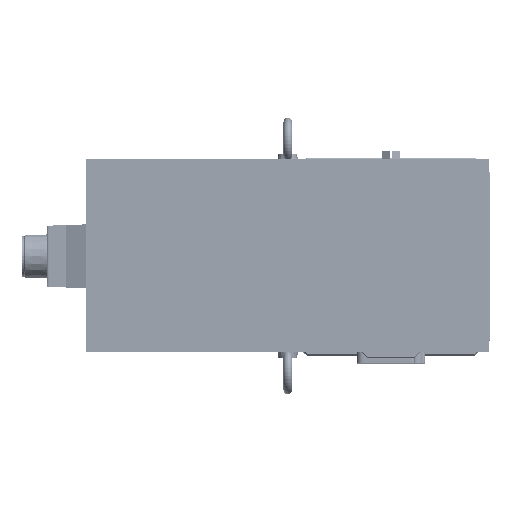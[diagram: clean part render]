
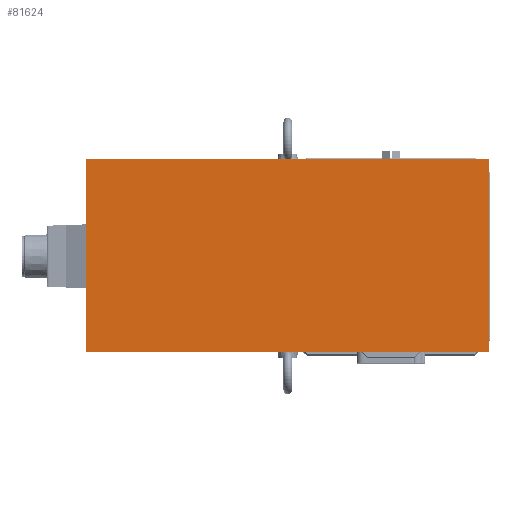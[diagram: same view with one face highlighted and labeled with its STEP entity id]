
A CAD part, top view. The second image highlights one B-rep face of the part: STEP entity #81624.
In plain terms, the highlighted planar face has unit normal (0, 0, 1).
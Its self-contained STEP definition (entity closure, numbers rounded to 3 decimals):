
#81585=CARTESIAN_POINT('',(-75.5,-77.,621.));
#81586=DIRECTION('',(0.,-1.,0.));
#81587=DIRECTION('',(-0.,0.,1.));
#81588=AXIS2_PLACEMENT_3D('',#81585,#81587,#81586);
#81589=PLANE('',#81588);
#81590=CARTESIAN_POINT('',(72.,70.5,621.));
#81591=VERTEX_POINT('',#81590);
#81592=CARTESIAN_POINT('',(-223.,70.5,621.));
#81593=VERTEX_POINT('',#81592);
#81594=CARTESIAN_POINT('',(72.,70.5,621.));
#81595=DIRECTION('',(-1.,0.,0.));
#81596=VECTOR('',#81595,295.);
#81597=LINE('',#81594,#81596);
#81598=EDGE_CURVE('',#81591,#81593,#81597,.T.);
#81599=ORIENTED_EDGE('E1',*,*,#81598,.T.);
#81600=CARTESIAN_POINT('',(-223.,-70.5,621.));
#81601=VERTEX_POINT('',#81600);
#81602=CARTESIAN_POINT('',(-223.,70.5,621.));
#81603=DIRECTION('',(0.,-1.,0.));
#81604=VECTOR('',#81603,141.);
#81605=LINE('',#81602,#81604);
#81606=EDGE_CURVE('',#81593,#81601,#81605,.T.);
#81607=ORIENTED_EDGE('E2',*,*,#81606,.T.);
#81608=CARTESIAN_POINT('',(72.,-70.5,621.));
#81609=VERTEX_POINT('',#81608);
#81610=CARTESIAN_POINT('',(-223.,-70.5,621.));
#81611=DIRECTION('',(1.,0.,0.));
#81612=VECTOR('',#81611,295.);
#81613=LINE('',#81610,#81612);
#81614=EDGE_CURVE('',#81601,#81609,#81613,.T.);
#81615=ORIENTED_EDGE('E3',*,*,#81614,.T.);
#81616=CARTESIAN_POINT('',(72.,-70.5,621.));
#81617=DIRECTION('',(0.,1.,0.));
#81618=VECTOR('',#81617,141.);
#81619=LINE('',#81616,#81618);
#81620=EDGE_CURVE('',#81609,#81591,#81619,.T.);
#81621=ORIENTED_EDGE('E4',*,*,#81620,.T.);
#81622=EDGE_LOOP('',(#81599,#81607,#81615,#81621));
#81623=FACE_OUTER_BOUND('',#81622,.T.);
#81624=ADVANCED_FACE('F1',(#81623),#81589,.T.);
